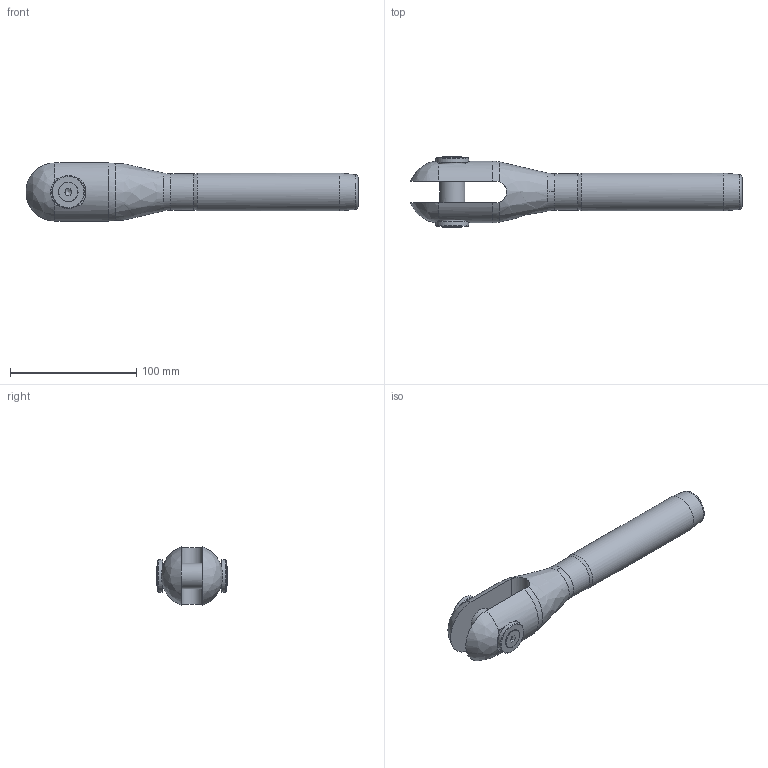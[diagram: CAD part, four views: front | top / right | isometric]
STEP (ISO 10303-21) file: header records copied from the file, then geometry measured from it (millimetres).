
FILE_DESCRIPTION(/* description */ (''),/* implementation_level */ '2;1');
FILE_NAME(/* name */ 'MAC 14_1,4418',/* time_stamp */ '2023-05-23T16:54:52+02:00',/* author */ (''),/* organization */ (''),/* preprocessor_version */ 'ST-DEVELOPER v16.5',/* originating_system */ 'Rhino 7.22',/* authorisation */ '');
FILE_SCHEMA (('CONFIG_CONTROL_DESIGN'));
Length unit declared in the file: millimetre
Products named in the file (1): Document
Bounding box: 262.95 x 55.57 x 45.96 mm (x, y, z)
Volume: 223357.3 mm3; surface area: 43526.7 mm2
Topology: 6 solids, 6 shells, 75 faces, 210 edges, 145 vertices
Faces by surface type: plane 29, bspline 24, cylinder 22
Full cylindrical faces by diameter (mm): 6.647 x2, 8 x2, 8.5 x2, 15.24 x2, 20 x1, 21 x2, 26 x2, 28.6 x1, 30 x1
Entity records: 3106 total; most frequent: CARTESIAN_POINT 1759, ORIENTED_EDGE 412, EDGE_CURVE 206, VERTEX_POINT 145, EDGE_LOOP 85, B_SPLINE_CURVE_WITH_KNOTS 84, ADVANCED_FACE 75, FACE_OUTER_BOUND 75
